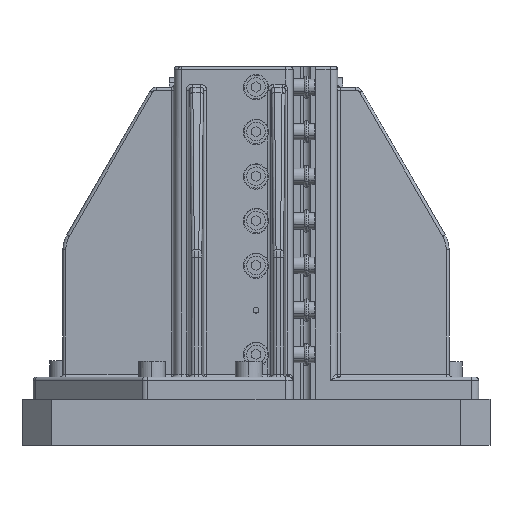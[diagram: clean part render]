
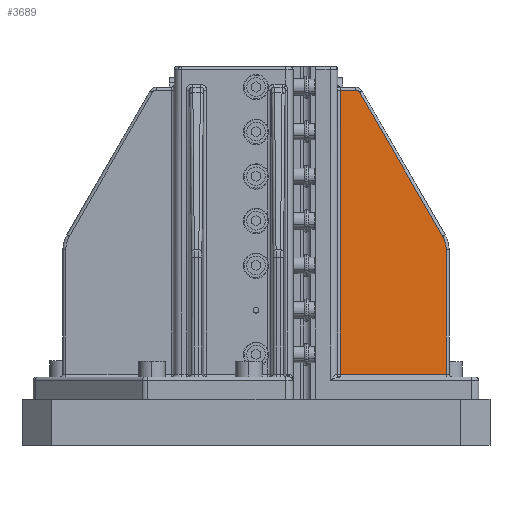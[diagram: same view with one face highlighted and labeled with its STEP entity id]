
A CAD part, left-side view. The second image highlights one B-rep face of the part: STEP entity #3689.
In plain terms, the highlighted planar face has unit normal (-0.999, -0.035, 0).
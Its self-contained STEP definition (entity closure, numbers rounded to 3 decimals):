
#3689=ADVANCED_FACE('Solid.1',(#9561),#9562,.F.);
#9561=FACE_OUTER_BOUND('',#18516,.T.);
#9562=PLANE('',#18517);
#18516=EDGE_LOOP('',(#31783,#31784,#31785,#31786,#31787,#31788,#31789));
#18517=AXIS2_PLACEMENT_3D('',#31790,#31791,#31792);
#31783=ORIENTED_EDGE('',*,*,#53112,.F.);
#31784=ORIENTED_EDGE('',*,*,#53113,.T.);
#31785=ORIENTED_EDGE('',*,*,#53114,.T.);
#31786=ORIENTED_EDGE('',*,*,#53115,.F.);
#31787=ORIENTED_EDGE('',*,*,#53057,.F.);
#31788=ORIENTED_EDGE('',*,*,#53053,.F.);
#31789=ORIENTED_EDGE('',*,*,#53049,.F.);
#31790=CARTESIAN_POINT('',(-20.,-55.,143.));
#31791=DIRECTION('',(0.999,0.035,0.));
#31792=DIRECTION('',(0.,0.0,-1.0));
#53049=EDGE_CURVE('',#62560,#62562,#62563,.T.);
#53053=EDGE_CURVE('',#62562,#62568,#62569,.T.);
#53057=EDGE_CURVE('',#62568,#62574,#62575,.T.);
#53112=EDGE_CURVE('',#62652,#62560,#62653,.F.);
#53113=EDGE_CURVE('',#62652,#62654,#62655,.T.);
#53114=EDGE_CURVE('',#62654,#62656,#62657,.F.);
#53115=EDGE_CURVE('',#62574,#62656,#62658,.T.);
#62560=VERTEX_POINT('',#76007);
#62562=VERTEX_POINT('',#76009);
#62563=B_SPLINE_CURVE_WITH_KNOTS('',5,(#76010,#76011,#76012,#76013,#76014,#76015),.UNSPECIFIED.,.F.,.F.,(6,6),(15.269,21.377),.UNSPECIFIED.);
#62568=VERTEX_POINT('',#76030);
#62569=B_SPLINE_CURVE_WITH_KNOTS('',1,(#76031,#76032),.UNSPECIFIED.,.F.,.F.,(2,2),(-51.236,60.535),.UNSPECIFIED.);
#62574=VERTEX_POINT('',#76038);
#62575=B_SPLINE_CURVE_WITH_KNOTS('',4,(#76039,#76040,#76041,#76042,#76043),.UNSPECIFIED.,.F.,.F.,(5,5),(77.511,91.601),.UNSPECIFIED.);
#62652=VERTEX_POINT('',#76250);
#62653=LINE('',#76251,#76252);
#62654=VERTEX_POINT('',#76253);
#62655=LINE('',#76254,#76255);
#62656=VERTEX_POINT('',#76256);
#62657=LINE('',#76257,#76258);
#62658=LINE('',#76259,#76260);
#76007=CARTESIAN_POINT('',(-19.575,-67.183,239.));
#76009=CARTESIAN_POINT('',(-19.484,-69.781,237.5));
#76010=CARTESIAN_POINT('',(-19.575,-67.183,239.));
#76011=CARTESIAN_POINT('',(-19.553,-67.811,239.));
#76012=CARTESIAN_POINT('',(-19.531,-68.44,238.836));
#76013=CARTESIAN_POINT('',(-19.511,-69.01,238.506));
#76014=CARTESIAN_POINT('',(-19.495,-69.467,238.045));
#76015=CARTESIAN_POINT('',(-19.484,-69.781,237.5));
#76030=CARTESIAN_POINT('',(-17.533,-125.658,140.718));
#76031=CARTESIAN_POINT('',(-19.484,-69.781,237.5));
#76032=CARTESIAN_POINT('',(-17.533,-125.658,140.718));
#76038=CARTESIAN_POINT('',(-17.448,-128.07,131.718));
#76039=CARTESIAN_POINT('',(-17.533,-125.658,140.718));
#76040=CARTESIAN_POINT('',(-17.491,-126.836,138.678));
#76041=CARTESIAN_POINT('',(-17.463,-127.658,136.431));
#76042=CARTESIAN_POINT('',(-17.448,-128.07,134.075));
#76043=CARTESIAN_POINT('',(-17.448,-128.07,131.718));
#76250=CARTESIAN_POINT('',(-19.942,-56.656,239.));
#76251=CARTESIAN_POINT('',(-18.681,-92.771,239.));
#76252=VECTOR('',#92853,1.0);
#76253=CARTESIAN_POINT('',(-19.942,-56.656,48.));
#76254=CARTESIAN_POINT('',(-19.942,-56.656,143.));
#76255=VECTOR('',#92854,1.0);
#76256=CARTESIAN_POINT('',(-17.448,-128.07,48.));
#76257=CARTESIAN_POINT('',(-18.681,-92.771,48.));
#76258=VECTOR('',#92855,1.0);
#76259=CARTESIAN_POINT('',(-17.448,-128.07,143.));
#76260=VECTOR('',#92856,1.0);
#92853=DIRECTION('',(-0.035,0.999,0.0));
#92854=DIRECTION('',(0.0,0.0,-1.0));
#92855=DIRECTION('',(-0.035,0.999,0.0));
#92856=DIRECTION('',(0.0,0.0,-1.0));
